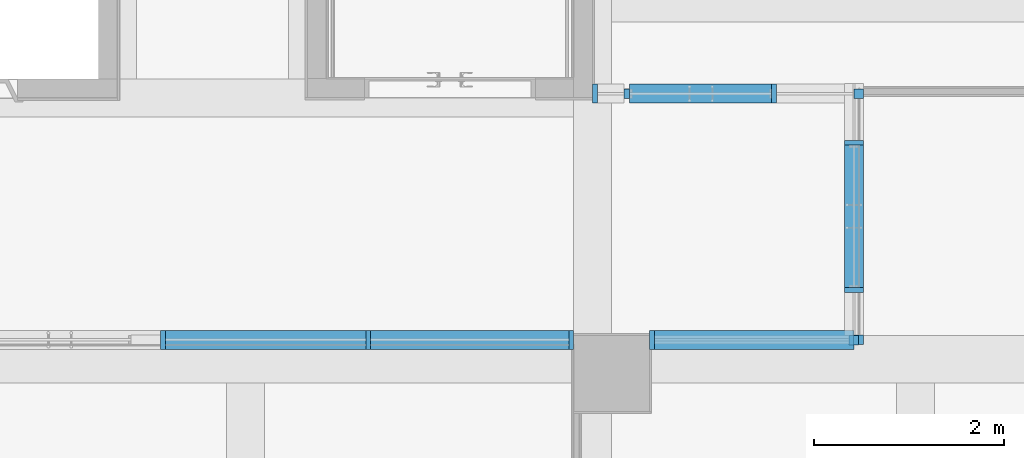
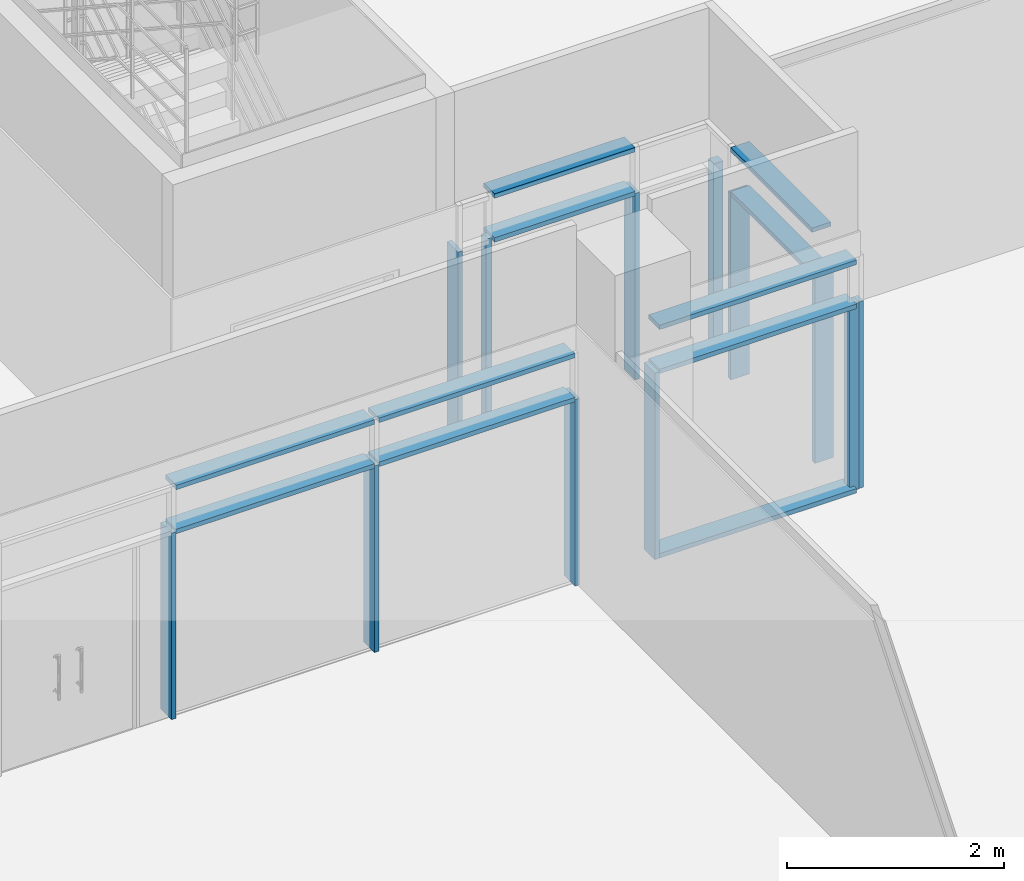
# One storey, part 5 of 76: 23 members, 4 elements without a shape of their own.
"""IFC2X3 building model written with IfcOpenShell, lengths in millimetres."""

from ifc_helpers import new_model, entity, si_unit, converted_unit, derived_unit, direction, frame, origin, origin_2d_with_axis, place, context, subcontext, project, spatial, rectangle, extrude, source, transform, mapped, material, type_object, type_shapes, element, aggregate, save


model = new_model("IFC2X3")

# Units and contexts
model_context = context("Model", 3, precision=0.01, world=origin(), true_north=direction((6.123031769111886e-17, 1.0)))
body_context = subcontext(model_context, "Body", "Model", "MODEL_VIEW")
ifc_project = project(units=[si_unit("LENGTHUNIT", "METRE", prefix="MILLI"), si_unit("AREAUNIT", "SQUARE_METRE"), si_unit("VOLUMEUNIT", "CUBIC_METRE"), converted_unit("PLANEANGLEUNIT", "DEGREE", entity("IfcRatioMeasure", 0.017453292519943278), si_unit("PLANEANGLEUNIT", "RADIAN"), dimensions=[0, 0, 0, 0, 0, 0, 0]), si_unit("MASSUNIT", "GRAM", prefix="KILO"), derived_unit("MASSDENSITYUNIT", [(si_unit("MASSUNIT", "GRAM", prefix="KILO"), 1), (si_unit("LENGTHUNIT", "METRE"), -3)]), derived_unit("MOMENTOFINERTIAUNIT", [(si_unit("LENGTHUNIT", "METRE"), 4)]), si_unit("TIMEUNIT", "SECOND"), si_unit("FREQUENCYUNIT", "HERTZ"), si_unit("THERMODYNAMICTEMPERATUREUNIT", "DEGREE_CELSIUS"), derived_unit("THERMALTRANSMITTANCEUNIT", [(si_unit("MASSUNIT", "GRAM", prefix="KILO"), 1), (si_unit("THERMODYNAMICTEMPERATUREUNIT", "KELVIN"), -1), (si_unit("TIMEUNIT", "SECOND"), -3)]), derived_unit("VOLUMETRICFLOWRATEUNIT", [(si_unit("LENGTHUNIT", "METRE"), 3), (si_unit("TIMEUNIT", "SECOND"), -1)]), derived_unit("MASSFLOWRATEUNIT", [(si_unit("MASSUNIT", "GRAM", prefix="KILO"), 1), (si_unit("TIMEUNIT", "SECOND"), -1)]), derived_unit("ROTATIONALFREQUENCYUNIT", [(si_unit("TIMEUNIT", "SECOND"), -1)]), si_unit("ELECTRICCURRENTUNIT", "AMPERE"), si_unit("ELECTRICVOLTAGEUNIT", "VOLT"), si_unit("POWERUNIT", "WATT"), si_unit("FORCEUNIT", "NEWTON", prefix="KILO"), si_unit("ILLUMINANCEUNIT", "LUX"), si_unit("LUMINOUSFLUXUNIT", "LUMEN"), si_unit("LUMINOUSINTENSITYUNIT", "CANDELA"), derived_unit("USERDEFINED", [(si_unit("MASSUNIT", "GRAM", prefix="KILO"), -1), (si_unit("LENGTHUNIT", "METRE"), -2), (si_unit("TIMEUNIT", "SECOND"), 3), (si_unit("LUMINOUSFLUXUNIT", "LUMEN"), 1)]), derived_unit("SOUNDPOWERUNIT", [(si_unit("MASSUNIT", "GRAM", prefix="KILO"), 1), (si_unit("LENGTHUNIT", "METRE"), 2), (si_unit("TIMEUNIT", "SECOND"), -3)]), derived_unit("SOUNDPRESSUREUNIT", [(si_unit("MASSUNIT", "GRAM", prefix="KILO"), 1), (si_unit("LENGTHUNIT", "METRE"), -1), (si_unit("TIMEUNIT", "SECOND"), -2)]), derived_unit("LINEARVELOCITYUNIT", [(si_unit("LENGTHUNIT", "METRE"), 1), (si_unit("TIMEUNIT", "SECOND"), -1)]), si_unit("PRESSUREUNIT", "PASCAL"), derived_unit("USERDEFINED", [(si_unit("LENGTHUNIT", "METRE"), -2), (si_unit("MASSUNIT", "GRAM", prefix="KILO"), 1), (si_unit("TIMEUNIT", "SECOND"), -2)]), derived_unit("LINEARFORCEUNIT", [(si_unit("MASSUNIT", "GRAM", prefix="KILO"), 1), (si_unit("LENGTHUNIT", "METRE"), 1), (si_unit("TIMEUNIT", "SECOND"), -2), (si_unit("LENGTHUNIT", "METRE"), -1)]), derived_unit("PLANARFORCEUNIT", [(si_unit("MASSUNIT", "GRAM", prefix="KILO"), 1), (si_unit("LENGTHUNIT", "METRE"), 1), (si_unit("TIMEUNIT", "SECOND"), -2), (si_unit("LENGTHUNIT", "METRE"), -2)])], contexts=[model_context])

# Site, building, storey
site_placement = place(None, frame((-14167.972527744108, -657.2125860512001, 0.0)))
site = spatial("IfcSite", under=ifc_project, at=site_placement, Name="Default", CompositionType="ELEMENT")
building_placement = place(site_placement, origin())
building = spatial("IfcBuilding", under=site, at=building_placement, Name="Sample Building", CompositionType="ELEMENT")
storey_placement = place(building_placement, frame((0.0, 0.0, 9300.0)))
storey = spatial("IfcBuildingStorey", under=building, at=storey_placement, Name="지상 3층", CompositionType="ELEMENT", Elevation=9300.000000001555)

# Curtain wall, member
curtain_wall_type = type_object("IfcCurtainWallType", Name="커튼월:CW112-스테인리스 스틸 커튼월", PredefinedType="NOTDEFINED")
curtain_wall_1_placement = place(storey_placement, frame((0.0, 0.0, -9300.0)))
curtain_wall_1 = element("IfcCurtainWall", 1, at=curtain_wall_1_placement, inside=storey, type_object=curtain_wall_type, Name="커튼월:CW112-스테인리스 스틸 커튼월", ObjectType="커튼월:CW112-스테인리스 스틸 커튼월")
ifc_material = material(Name="<Unnamed>")
member_type_1 = type_object("IfcMemberType", Name="직사각형 멀리언:CW200-직사각형 멀리언 50x200mm", PredefinedType="MULLION", material=ifc_material)
shared_shape_1 = source(origin(), body_context, "Body", "SweptSolid", [
    extrude(rectangle(XDim=200.0, YDim=50.0, at=origin_2d_with_axis()), frame((-25.0, 0.0, -2100.0), z_axis=(0.0, 0.0, 1.0), x_axis=(0.0, -1.0, 0.0)), (0.0, 0.0, 1.0), 2100.0),
])
type_shapes(member_type_1, [shared_shape_1])
member_1_placement = place(curtain_wall_1_placement, frame((40767.9724911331, 13012.194878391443, 9380.0), z_axis=(0.0, 0.0, -1.0), x_axis=(1.0, 0.0, 0.0)))
member_1 = element("IfcMember", 2, at=member_1_placement, type_object=member_type_1, material=ifc_material, Name="직사각형 멀리언:CW200-직사각형 멀리언 50x200mm", ObjectType="직사각형 멀리언:CW200-직사각형 멀리언 50x200mm", context=body_context, shape_type="MappedRepresentation", body=[
    mapped(shared_shape_1, transform((0.0, 0.0, 0.0), scale=1.0)),
])

# Curtain wall, members
curtain_wall_2_placement = place(storey_placement, frame((0.0, 0.0, -9300.0)))
curtain_wall_2 = element("IfcCurtainWall", 3, at=curtain_wall_2_placement, inside=storey, type_object=curtain_wall_type, Name="커튼월:CW112-스테인리스 스틸 커튼월", ObjectType="커튼월:CW112-스테인리스 스틸 커튼월")
member_type_2 = type_object("IfcMemberType", Name="직사각형 멀리언:CW200-직사각형 멀리언 50x200mm", PredefinedType="MULLION", material=ifc_material)
shared_shape_2 = source(origin(), body_context, "Body", "SweptSolid", [
    extrude(rectangle(XDim=200.0, YDim=50.0, at=origin_2d_with_axis()), frame((0.0, 0.0, -2100.0), z_axis=(0.0, 0.0, 1.0), x_axis=(0.0, -1.0, 0.0)), (0.0, 0.0, 1.0), 2100.0),
])
type_shapes(member_type_2, [shared_shape_2])
member_2_placement = place(curtain_wall_2_placement, frame((43717.972491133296, 13537.177678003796, 9380.0), z_axis=(0.0, 0.0, -1.0), x_axis=(0.0, 1.0, 0.0)))
member_2 = element("IfcMember", 4, at=member_2_placement, type_object=member_type_2, material=ifc_material, Name="직사각형 멀리언:CW200-직사각형 멀리언 50x200mm", ObjectType="직사각형 멀리언:CW200-직사각형 멀리언 50x200mm", context=body_context, shape_type="MappedRepresentation", body=[
    mapped(shared_shape_2, transform((0.0, 0.0, 0.0), scale=1.0)),
])
member_3_placement = place(curtain_wall_2_placement, frame((43717.972491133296, 15087.177678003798, 9380.0), z_axis=(0.0, 0.0, -1.0), x_axis=(0.0, 1.0, 0.0)))
member_3 = element("IfcMember", 5, at=member_3_placement, type_object=member_type_2, material=ifc_material, Name="직사각형 멀리언:CW200-직사각형 멀리언 50x200mm", ObjectType="직사각형 멀리언:CW200-직사각형 멀리언 50x200mm", context=body_context, shape_type="MappedRepresentation", body=[
    mapped(shared_shape_2, transform((0.0, 0.0, 0.0), scale=1.0)),
])

# Curtain wall, member
curtain_wall_3_placement = place(storey_placement, frame((0.0, 0.0, -9300.0)))
curtain_wall_3 = element("IfcCurtainWall", 6, at=curtain_wall_3_placement, inside=storey, type_object=curtain_wall_type, Name="커튼월:CW112-스테인리스 스틸 커튼월", ObjectType="커튼월:CW112-스테인리스 스틸 커튼월")
member_type_3 = type_object("IfcMemberType", Name="직사각형 멀리언:CW200-직사각형 멀리언 50x200mm", PredefinedType="MULLION", material=ifc_material)
shared_shape_3 = source(origin(), body_context, "Body", "SweptSolid", [
    extrude(rectangle(XDim=200.0, YDim=50.0, at=origin_2d_with_axis()), frame((-25.0, 0.0, -2100.0), z_axis=(0.0, 0.0, 1.0), x_axis=(0.0, -1.0, 0.0)), (0.0, 0.0, 1.0), 2099.9999999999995),
])
type_shapes(member_type_3, [shared_shape_3])
member_4_placement = place(curtain_wall_3_placement, frame((41567.95773553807, 13012.212383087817, 11480.0), z_axis=(0.0, 0.0, 1.0), x_axis=(-1.0, 0.0, 0.0)))
member_4 = element("IfcMember", 7, at=member_4_placement, type_object=member_type_3, material=ifc_material, Name="직사각형 멀리언:CW200-직사각형 멀리언 50x200mm", ObjectType="직사각형 멀리언:CW200-직사각형 멀리언 50x200mm", context=body_context, shape_type="MappedRepresentation", body=[
    mapped(shared_shape_3, transform((0.0, 0.0, 0.0), scale=1.0)),
])

# Member
member_type_4 = type_object("IfcMemberType", Name="직사각형 멀리언:CW200-직사각형 멀리언 50x200mm", PredefinedType="MULLION", material=ifc_material)
shared_shape_4 = source(origin(), body_context, "Body", "SweptSolid", [
    extrude(rectangle(XDim=200.0, YDim=50.0, at=origin_2d_with_axis()), frame((-25.0, 0.0, -1500.0), z_axis=(0.0, 0.0, 1.0), x_axis=(0.0, -1.0, 0.0)), (0.0, 0.0, 1.0), 1500.0000000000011),
])
type_shapes(member_type_4, [shared_shape_4])
member_5_placement = place(curtain_wall_2_placement, frame((43717.972491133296, 15062.177678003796, 12000.0), z_axis=(0.0, 1.0, 0.0), x_axis=(0.0, 0.0, 1.0)))
member_5 = element("IfcMember", 8, at=member_5_placement, type_object=member_type_4, material=ifc_material, Name="직사각형 멀리언:CW200-직사각형 멀리언 50x200mm", ObjectType="직사각형 멀리언:CW200-직사각형 멀리언 50x200mm", context=body_context, shape_type="MappedRepresentation", body=[
    mapped(shared_shape_4, transform((0.0, 0.0, 0.0), scale=1.0)),
])

member_type_5 = type_object("IfcMemberType", Name="직사각형 멀리언:CW200-직사각형 멀리언 50x200mm", PredefinedType="MULLION", material=ifc_material)
shared_shape_5 = source(origin(), body_context, "Body", "SweptSolid", [
    extrude(rectangle(XDim=200.0, YDim=50.0, at=origin_2d_with_axis()), frame((0.0, 0.0, -1500.0), z_axis=(0.0, 0.0, 1.0), x_axis=(0.0, -1.0, 0.0)), (0.0, 0.0, 1.0), 1500.0000000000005),
])
type_shapes(member_type_5, [shared_shape_5])
member_6_placement = place(curtain_wall_2_placement, frame((43717.972491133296, 15062.177678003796, 11480.0), z_axis=(0.0, 1.0, 0.0), x_axis=(0.0, 0.0, 1.0)))
member_6 = element("IfcMember", 9, at=member_6_placement, type_object=member_type_5, material=ifc_material, Name="직사각형 멀리언:CW200-직사각형 멀리언 50x200mm", ObjectType="직사각형 멀리언:CW200-직사각형 멀리언 50x200mm", context=body_context, shape_type="MappedRepresentation", body=[
    mapped(shared_shape_5, transform((0.0, 0.0, 0.0), scale=1.0)),
])

member_type_6 = type_object("IfcMemberType", Name="직사각형 멀리언:CW200-직사각형 멀리언 50x200mm", PredefinedType="MULLION", material=ifc_material)
shared_shape_6 = source(origin(), body_context, "Body", "SweptSolid", [
    extrude(rectangle(XDim=200.0, YDim=50.0, at=origin_2d_with_axis()), frame((0.0, 0.0, -2100.0), z_axis=(0.0, 0.0, 1.0), x_axis=(0.0, -1.0, 0.0)), (0.0, 0.0, 1.0), 2100.0),
])
type_shapes(member_type_6, [shared_shape_6])
member_7_placement = place(curtain_wall_1_placement, frame((36447.972491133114, 13012.194878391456, 9380.0), z_axis=(0.0, 0.0, -1.0), x_axis=(1.0, 0.0, 0.0)))
member_7 = element("IfcMember", 10, at=member_7_placement, type_object=member_type_6, material=ifc_material, Name="직사각형 멀리언:CW200-직사각형 멀리언 50x200mm", ObjectType="직사각형 멀리언:CW200-직사각형 멀리언 50x200mm", context=body_context, shape_type="MappedRepresentation", body=[
    mapped(shared_shape_6, transform((0.0, 0.0, 0.0), scale=1.0)),
])

member_8_placement = place(curtain_wall_1_placement, frame((38607.972491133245, 13012.19487839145, 9380.0), z_axis=(0.0, 0.0, -1.0), x_axis=(1.0, 0.0, 0.0)))
member_8 = element("IfcMember", 11, at=member_8_placement, type_object=member_type_6, material=ifc_material, Name="직사각형 멀리언:CW200-직사각형 멀리언 50x200mm", ObjectType="직사각형 멀리언:CW200-직사각형 멀리언 50x200mm", context=body_context, shape_type="MappedRepresentation", body=[
    mapped(shared_shape_6, transform((0.0, 0.0, 0.0), scale=1.0)),
])

member_type_7 = type_object("IfcMemberType", Name="직사각형 멀리언:CW200-직사각형 멀리언 100 x 100mm", PredefinedType="MULLION", material=ifc_material)
shared_shape_7 = source(origin(), body_context, "Body", "SweptSolid", [
    extrude(rectangle(XDim=100.00000000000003, YDim=100.0, at=origin_2d_with_axis()), frame((-50.0, 0.0, -2100.0), z_axis=(0.0, 0.0, 1.0), x_axis=(0.0, -1.0, 0.0)), (0.0, 0.0, 1.0), 2100.0),
])
type_shapes(member_type_7, [shared_shape_7])
member_9_placement = place(curtain_wall_3_placement, frame((43817.95773553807, 13012.21238308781, 9380.0), z_axis=(0.0, 0.0, -1.0), x_axis=(1.0, 0.0, 0.0)))
member_9 = element("IfcMember", 12, at=member_9_placement, type_object=member_type_7, material=ifc_material, Name="직사각형 멀리언:CW200-직사각형 멀리언 100 x 100mm", ObjectType="직사각형 멀리언:CW200-직사각형 멀리언 100 x 100mm", context=body_context, shape_type="MappedRepresentation", body=[
    mapped(shared_shape_7, transform((0.0, 0.0, 0.0), scale=1.0)),
])

member_type_8 = type_object("IfcMemberType", Name="직사각형 멀리언:CW200-직사각형 멀리언 50x200mm", PredefinedType="MULLION", material=ifc_material)
shared_shape_8 = source(origin(), body_context, "Body", "SweptSolid", [
    extrude(rectangle(XDim=200.0, YDim=50.0, at=origin_2d_with_axis()), frame((-25.0, 0.0, -2085.0), z_axis=(0.0, 0.0, 1.0), x_axis=(0.0, -1.0, 0.0)), (0.0, 0.0, 1.0), 2084.9999999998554),
])
type_shapes(member_type_8, [shared_shape_8])
member_10_placement = place(curtain_wall_1_placement, frame((40717.97249113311, 13012.194878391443, 12000.0), z_axis=(1.0, 0.0, 0.0), x_axis=(0.0, 0.0, 1.0)))
member_10 = element("IfcMember", 13, at=member_10_placement, type_object=member_type_8, material=ifc_material, Name="직사각형 멀리언:CW200-직사각형 멀리언 50x200mm", ObjectType="직사각형 멀리언:CW200-직사각형 멀리언 50x200mm", context=body_context, shape_type="MappedRepresentation", body=[
    mapped(shared_shape_8, transform((0.0, 0.0, 0.0), scale=1.0)),
])

member_type_9 = type_object("IfcMemberType", Name="직사각형 멀리언:CW200-직사각형 멀리언 50x200mm", PredefinedType="MULLION", material=ifc_material)
shared_shape_9 = source(origin(), body_context, "Body", "SweptSolid", [
    extrude(rectangle(XDim=200.0, YDim=50.0, at=origin_2d_with_axis()), frame((0.0, 0.0, -2085.0), z_axis=(0.0, 0.0, 1.0), x_axis=(0.0, -1.0, 0.0)), (0.0, 0.0, 1.0), 2084.9999999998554),
])
type_shapes(member_type_9, [shared_shape_9])
member_11_placement = place(curtain_wall_1_placement, frame((40717.97249113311, 13012.194878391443, 11480.0), z_axis=(1.0, 0.0, 0.0), x_axis=(0.0, 0.0, 1.0)))
member_11 = element("IfcMember", 14, at=member_11_placement, type_object=member_type_9, material=ifc_material, Name="직사각형 멀리언:CW200-직사각형 멀리언 50x200mm", ObjectType="직사각형 멀리언:CW200-직사각형 멀리언 50x200mm", context=body_context, shape_type="MappedRepresentation", body=[
    mapped(shared_shape_9, transform((0.0, 0.0, 0.0), scale=1.0)),
])

member_type_10 = type_object("IfcMemberType", Name="직사각형 멀리언:CW200-직사각형 멀리언 50x200mm", PredefinedType="MULLION", material=ifc_material)
shared_shape_10 = source(origin(), body_context, "Body", "SweptSolid", [
    extrude(rectangle(XDim=200.0, YDim=50.0, at=origin_2d_with_axis()), frame((0.0, 0.0, -2110.0), z_axis=(0.0, 0.0, 1.0), x_axis=(0.0, -1.0, 0.0)), (0.0, 0.0, 1.0), 2110.0000000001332),
])
type_shapes(member_type_10, [shared_shape_10])
member_12_placement = place(curtain_wall_1_placement, frame((38582.972491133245, 13012.19487839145, 11480.0), z_axis=(1.0, 0.0, 0.0), x_axis=(0.0, 0.0, 1.0)))
member_12 = element("IfcMember", 15, at=member_12_placement, type_object=member_type_10, material=ifc_material, Name="직사각형 멀리언:CW200-직사각형 멀리언 50x200mm", ObjectType="직사각형 멀리언:CW200-직사각형 멀리언 50x200mm", context=body_context, shape_type="MappedRepresentation", body=[
    mapped(shared_shape_10, transform((0.0, 0.0, 0.0), scale=1.0)),
])

member_type_11 = type_object("IfcMemberType", Name="직사각형 멀리언:CW200-직사각형 멀리언 50x200mm", PredefinedType="MULLION", material=ifc_material)
shared_shape_11 = source(origin(), body_context, "Body", "SweptSolid", [
    extrude(rectangle(XDim=200.0, YDim=50.0, at=origin_2d_with_axis()), frame((-25.0, 0.0, -2110.0), z_axis=(0.0, 0.0, 1.0), x_axis=(0.0, -1.0, 0.0)), (0.0, 0.0, 1.0), 2110.0000000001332),
])
type_shapes(member_type_11, [shared_shape_11])
member_13_placement = place(curtain_wall_1_placement, frame((38582.972491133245, 13012.19487839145, 12000.0), z_axis=(1.0, 0.0, 0.0), x_axis=(0.0, 0.0, 1.0)))
member_13 = element("IfcMember", 16, at=member_13_placement, type_object=member_type_11, material=ifc_material, Name="직사각형 멀리언:CW200-직사각형 멀리언 50x200mm", ObjectType="직사각형 멀리언:CW200-직사각형 멀리언 50x200mm", context=body_context, shape_type="MappedRepresentation", body=[
    mapped(shared_shape_11, transform((0.0, 0.0, 0.0), scale=1.0)),
])

aggregate(curtain_wall_1, [member_10, member_1, member_12, member_7, member_13, member_11, member_8])

member_type_12 = type_object("IfcMemberType", Name="직사각형 멀리언:CW200-직사각형 멀리언 100 x 100mm", PredefinedType="MULLION", material=ifc_material)
shared_shape_12 = source(origin(), body_context, "Body", "SweptSolid", [
    extrude(rectangle(XDim=100.00000000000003, YDim=100.0, at=origin_2d_with_axis()), frame((-50.0, 0.0, -2100.0), z_axis=(0.0, 0.0, 1.0), x_axis=(0.0, -1.0, 0.0)), (0.0, 0.0, 1.0), 2100.0),
])
type_shapes(member_type_12, [shared_shape_12])
member_14_placement = place(curtain_wall_2_placement, frame((43717.972491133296, 12957.21258605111, 11480.0), z_axis=(0.0, 0.0, 1.0), x_axis=(0.0, -1.0, 0.0)))
member_14 = element("IfcMember", 17, at=member_14_placement, type_object=member_type_12, material=ifc_material, Name="직사각형 멀리언:CW200-직사각형 멀리언 100 x 100mm", ObjectType="직사각형 멀리언:CW200-직사각형 멀리언 100 x 100mm", context=body_context, shape_type="MappedRepresentation", body=[
    mapped(shared_shape_12, transform((0.0, 0.0, 0.0), scale=1.0)),
])

aggregate(curtain_wall_2, [member_2, member_14, member_6, member_5, member_3])

# Curtain wall, members
curtain_wall_4_placement = place(storey_placement, frame((0.0, 0.0, -9300.0)))
curtain_wall_4 = element("IfcCurtainWall", 18, at=curtain_wall_4_placement, inside=storey, type_object=curtain_wall_type, Name="커튼월:CW112-스테인리스 스틸 커튼월", ObjectType="커튼월:CW112-스테인리스 스틸 커튼월")
member_type_13 = type_object("IfcMemberType", Name="직사각형 멀리언:CW200-직사각형 멀리언 50x200mm", PredefinedType="MULLION", material=ifc_material)
shared_shape_13 = source(origin(), body_context, "Body", "SweptSolid", [
    extrude(rectangle(XDim=200.0, YDim=50.0, at=origin_2d_with_axis()), frame((-25.0, 0.0, -2100.0), z_axis=(0.0, 0.0, 1.0), x_axis=(0.0, -1.0, 0.0)), (0.0, 0.0, 1.0), 2100.0),
])
type_shapes(member_type_13, [shared_shape_13])
member_15_placement = place(curtain_wall_4_placement, frame((40967.963798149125, 15602.177678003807, 9380.0), z_axis=(0.0, 0.0, -1.0), x_axis=(-1.0, 0.0, 0.0)))
member_15 = element("IfcMember", 19, at=member_15_placement, type_object=member_type_13, material=ifc_material, Name="직사각형 멀리언:CW200-직사각형 멀리언 50x200mm", ObjectType="직사각형 멀리언:CW200-직사각형 멀리언 50x200mm", context=body_context, shape_type="MappedRepresentation", body=[
    mapped(shared_shape_13, transform((0.0, 0.0, 0.0), scale=1.0)),
])
member_type_14 = type_object("IfcMemberType", Name="직사각형 멀리언:CW200-직사각형 멀리언 50x200mm", PredefinedType="MULLION", material=ifc_material)
shared_shape_14 = source(origin(), body_context, "Body", "SweptSolid", [
    extrude(rectangle(XDim=200.0, YDim=50.0, at=origin_2d_with_axis()), frame((0.0, 0.0, -1495.0), z_axis=(0.0, 0.0, 1.0), x_axis=(0.0, -1.0, 0.0)), (0.0, 0.0, 1.0), 1495.0000000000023),
])
type_shapes(member_type_14, [shared_shape_14])
member_16_placement = place(curtain_wall_4_placement, frame((41357.972491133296, 15602.177678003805, 11480.0), z_axis=(-1.0, 0.0, 0.0), x_axis=(0.0, 0.0, 1.0)))
member_16 = element("IfcMember", 20, at=member_16_placement, type_object=member_type_14, material=ifc_material, Name="직사각형 멀리언:CW200-직사각형 멀리언 50x200mm", ObjectType="직사각형 멀리언:CW200-직사각형 멀리언 50x200mm", context=body_context, shape_type="MappedRepresentation", body=[
    mapped(shared_shape_14, transform((0.0, 0.0, 0.0), scale=1.0)),
])
member_type_15 = type_object("IfcMemberType", Name="직사각형 멀리언:CW200-직사각형 멀리언 50x200mm", PredefinedType="MULLION", material=ifc_material)
shared_shape_15 = source(origin(), body_context, "Body", "SweptSolid", [
    extrude(rectangle(XDim=200.0, YDim=50.0, at=origin_2d_with_axis()), frame((-25.0, 0.0, -1495.0), z_axis=(0.0, 0.0, 1.0), x_axis=(0.0, -1.0, 0.0)), (0.0, 0.0, 1.0), 1495.0000000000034),
])
type_shapes(member_type_15, [shared_shape_15])
member_17_placement = place(curtain_wall_4_placement, frame((41357.972491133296, 15602.177678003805, 12000.0), z_axis=(-1.0, 0.0, 0.0), x_axis=(0.0, 0.0, 1.0)))
member_17 = element("IfcMember", 21, at=member_17_placement, type_object=member_type_15, material=ifc_material, Name="직사각형 멀리언:CW200-직사각형 멀리언 50x200mm", ObjectType="직사각형 멀리언:CW200-직사각형 멀리언 50x200mm", context=body_context, shape_type="MappedRepresentation", body=[
    mapped(shared_shape_15, transform((0.0, 0.0, 0.0), scale=1.0)),
])
member_type_16 = type_object("IfcMemberType", Name="직사각형 멀리언:CW200-직사각형 멀리언 60 x 100mm", PredefinedType="MULLION", material=ifc_material)
shared_shape_16 = source(origin(), body_context, "Body", "SweptSolid", [
    extrude(rectangle(XDim=100.0, YDim=60.0, at=origin_2d_with_axis()), frame((0.0, 0.0, -2100.0), z_axis=(0.0, 0.0, 1.0), x_axis=(0.0, -1.0, 0.0)), (0.0, 0.0, 1.0), 2100.0),
])
type_shapes(member_type_16, [shared_shape_16])
member_18_placement = place(curtain_wall_4_placement, frame((41327.972491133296, 15602.177678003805, 9380.0), z_axis=(0.0, 0.0, -1.0), x_axis=(-1.0, 0.0, 0.0)))
member_18 = element("IfcMember", 22, at=member_18_placement, type_object=member_type_16, material=ifc_material, Name="직사각형 멀리언:CW200-직사각형 멀리언 60 x 100mm", ObjectType="직사각형 멀리언:CW200-직사각형 멀리언 60 x 100mm", context=body_context, shape_type="MappedRepresentation", body=[
    mapped(shared_shape_16, transform((0.0, 0.0, 0.0), scale=1.0)),
])
member_type_17 = type_object("IfcMemberType", Name="직사각형 멀리언:CW200-직사각형 멀리언 100 x 100mm", PredefinedType="MULLION", material=ifc_material)
shared_shape_17 = source(origin(), body_context, "Body", "SweptSolid", [
    extrude(rectangle(XDim=100.0, YDim=100.0, at=origin_2d_with_axis()), frame((-50.0, 0.0, -2100.0), z_axis=(0.0, 0.0, 1.0), x_axis=(0.0, -1.0, 0.0)), (0.0, 0.0, 1.0), 2099.999999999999),
])
type_shapes(member_type_17, [shared_shape_17])
member_19_placement = place(curtain_wall_4_placement, frame((43817.96379814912, 15602.1776780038, 11480.0)))
member_19 = element("IfcMember", 23, at=member_19_placement, type_object=member_type_17, material=ifc_material, Name="직사각형 멀리언:CW200-직사각형 멀리언 100 x 100mm", ObjectType="직사각형 멀리언:CW200-직사각형 멀리언 100 x 100mm", context=body_context, shape_type="MappedRepresentation", body=[
    mapped(shared_shape_17, transform((0.0, 0.0, 0.0), scale=1.0)),
])
member_type_18 = type_object("IfcMemberType", Name="직사각형 멀리언:CW200-직사각형 멀리언 50x200mm", PredefinedType="MULLION", material=ifc_material)
shared_shape_18 = source(origin(), body_context, "Body", "SweptSolid", [
    extrude(rectangle(XDim=200.0, YDim=50.0, at=origin_2d_with_axis()), frame((0.0, 0.0, -2100.0), z_axis=(0.0, 0.0, 1.0), x_axis=(0.0, -1.0, 0.0)), (0.0, 0.0, 1.0), 2099.999999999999),
])
type_shapes(member_type_18, [shared_shape_18])
member_20_placement = place(curtain_wall_4_placement, frame((42877.972491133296, 15602.177678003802, 9380.0), z_axis=(0.0, 0.0, -1.0), x_axis=(-1.0, 0.0, 0.0)))
member_20 = element("IfcMember", 24, at=member_20_placement, type_object=member_type_18, material=ifc_material, Name="직사각형 멀리언:CW200-직사각형 멀리언 50x200mm", ObjectType="직사각형 멀리언:CW200-직사각형 멀리언 50x200mm", context=body_context, shape_type="MappedRepresentation", body=[
    mapped(shared_shape_18, transform((0.0, 0.0, 0.0), scale=1.0)),
])
aggregate(curtain_wall_4, [member_15, member_19, member_16, member_20, member_17, member_18])

# Member
member_type_19 = type_object("IfcMemberType", Name="직사각형 멀리언:CW200-직사각형 멀리언 50x200mm", PredefinedType="MULLION", material=ifc_material)
shared_shape_19 = source(origin(), body_context, "Body", "SweptSolid", [
    extrude(rectangle(XDim=200.0, YDim=50.0, at=origin_2d_with_axis()), frame((-25.0, 0.0, -2100.0), z_axis=(0.0, 0.0, 1.0), x_axis=(0.0, -1.0, 0.0)), (0.0, 0.0, 1.0), 2099.999999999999),
])
type_shapes(member_type_19, [shared_shape_19])
member_21_placement = place(curtain_wall_3_placement, frame((43717.95773553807, 13012.21238308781, 12000.0), z_axis=(1.0, 0.0, 0.0), x_axis=(0.0, 0.0, 1.0)))
member_21 = element("IfcMember", 25, at=member_21_placement, type_object=member_type_19, material=ifc_material, Name="직사각형 멀리언:CW200-직사각형 멀리언 50x200mm", ObjectType="직사각형 멀리언:CW200-직사각형 멀리언 50x200mm", context=body_context, shape_type="MappedRepresentation", body=[
    mapped(shared_shape_19, transform((0.0, 0.0, 0.0), scale=1.0)),
])

member_type_20 = type_object("IfcMemberType", Name="직사각형 멀리언:CW200-직사각형 멀리언 50x200mm", PredefinedType="MULLION", material=ifc_material)
shared_shape_20 = source(origin(), body_context, "Body", "SweptSolid", [
    extrude(rectangle(XDim=200.0, YDim=50.0, at=origin_2d_with_axis()), frame((-25.0, 0.0, -2100.0), z_axis=(0.0, 0.0, 1.0), x_axis=(0.0, -1.0, 0.0)), (0.0, 0.0, 1.0), 2099.999999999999),
])
type_shapes(member_type_20, [shared_shape_20])
member_22_placement = place(curtain_wall_3_placement, frame((41617.95773553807, 13012.212383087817, 9380.0), z_axis=(-1.0, 0.0, 0.0), x_axis=(0.0, 0.0, -1.0)))
member_22 = element("IfcMember", 26, at=member_22_placement, type_object=member_type_20, material=ifc_material, Name="직사각형 멀리언:CW200-직사각형 멀리언 50x200mm", ObjectType="직사각형 멀리언:CW200-직사각형 멀리언 50x200mm", context=body_context, shape_type="MappedRepresentation", body=[
    mapped(shared_shape_20, transform((0.0, 0.0, 0.0), scale=1.0)),
])

member_type_21 = type_object("IfcMemberType", Name="직사각형 멀리언:CW200-직사각형 멀리언 50x200mm", PredefinedType="MULLION", material=ifc_material)
shared_shape_21 = source(origin(), body_context, "Body", "SweptSolid", [
    extrude(rectangle(XDim=200.0, YDim=50.0, at=origin_2d_with_axis()), frame((0.0, 0.0, -2100.0), z_axis=(0.0, 0.0, 1.0), x_axis=(0.0, -1.0, 0.0)), (0.0, 0.0, 1.0), 2099.999999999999),
])
type_shapes(member_type_21, [shared_shape_21])
member_23_placement = place(curtain_wall_3_placement, frame((43717.95773553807, 13012.21238308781, 11480.0), z_axis=(1.0, 0.0, 0.0), x_axis=(0.0, 0.0, 1.0)))
member_23 = element("IfcMember", 27, at=member_23_placement, type_object=member_type_21, material=ifc_material, Name="직사각형 멀리언:CW200-직사각형 멀리언 50x200mm", ObjectType="직사각형 멀리언:CW200-직사각형 멀리언 50x200mm", context=body_context, shape_type="MappedRepresentation", body=[
    mapped(shared_shape_21, transform((0.0, 0.0, 0.0), scale=1.0)),
])

aggregate(curtain_wall_3, [member_21, member_22, member_9, member_4, member_23])

save(model, "model.ifc")
